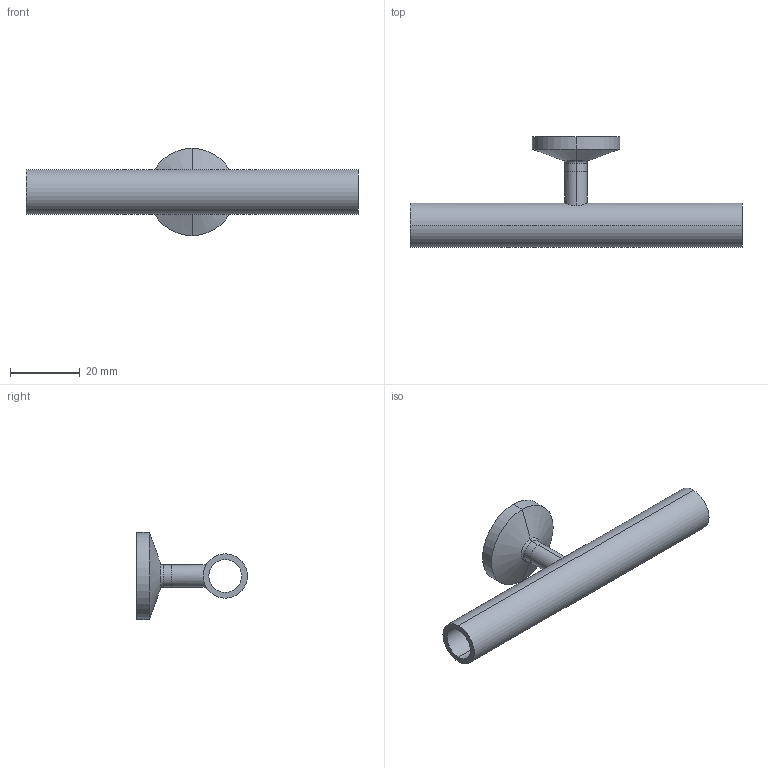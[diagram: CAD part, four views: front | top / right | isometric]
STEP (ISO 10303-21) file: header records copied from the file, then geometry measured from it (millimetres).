
FILE_DESCRIPTION (( 'STEP AP214' ), '1' );
FILE_NAME ('TE7RWWCS6L.5x.25-...STEP', '2016-05-23T10:40:05', ( 'eran' ), ( '' ), 'SwSTEP 2.0', 'SolidWorks 2016', '' );
FILE_SCHEMA (( 'AUTOMOTIVE_DESIGN' ));
Length unit declared in the file: millimetre
Products named in the file (1): TE7RWWCS6L.5x.25-..
Bounding box: 95.2 x 31.75 x 24.99 mm (x, y, z)
Volume: 7602.9 mm3; surface area: 8635.6 mm2
Topology: 2 solids, 2 shells, 34 faces, 70 edges, 42 vertices
Faces by surface type: cylinder 16, bspline 8, plane 6, cone 4
Entity records: 1155 total; most frequent: CARTESIAN_POINT 395, DIRECTION 158, ORIENTED_EDGE 140, EDGE_CURVE 70, AXIS2_PLACEMENT_3D 69, CIRCLE 42, EDGE_LOOP 42, VERTEX_POINT 42
